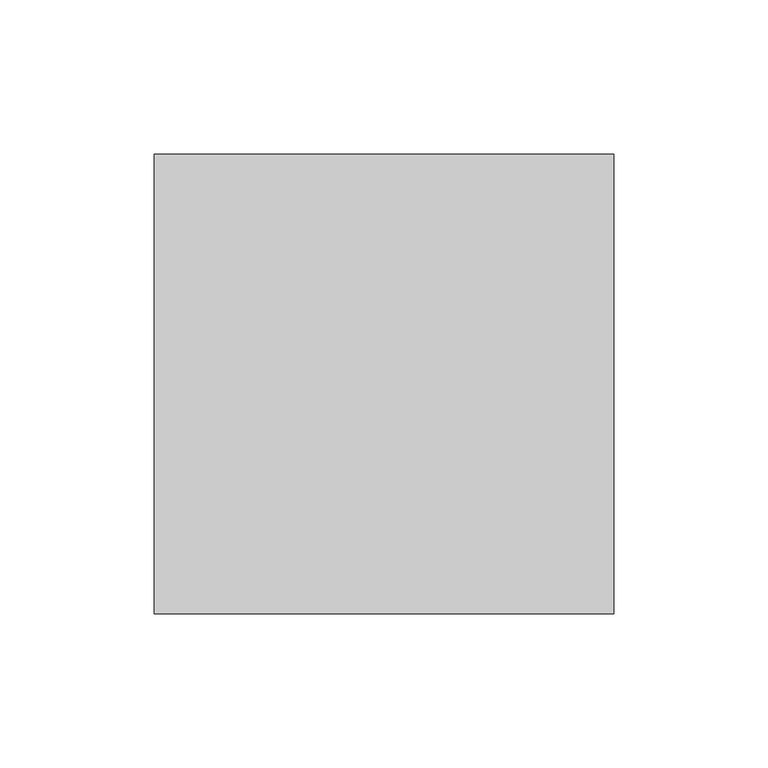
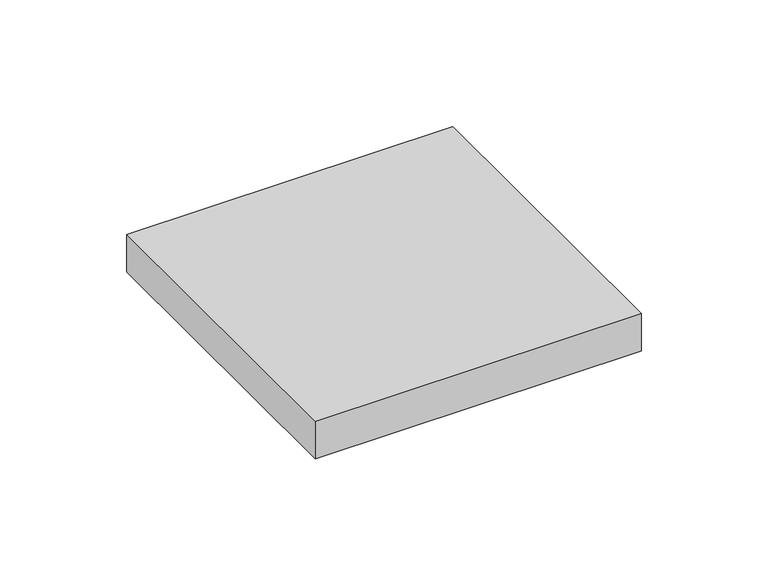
"""IFC4 building model written with IfcOpenShell, lengths in millimetres: proxy geometry, TECHNO_Решетка_KVU : Решетка рулонная деревянная / Светлое дерево."""

from ifc_helpers import new_model, si_unit, frame, origin, place, context, project, spatial, polyline, outline, extrude, source, transform, mapped, element, save


def mechanical_equipment_46e36d35(model_context):
    return source(origin(), model_context, "Body", "SweptSolid", [
        extrude(outline(polyline([(73.8, 73.8), (73.8, -75.0), (-75.0, -75.0), (-75.0, 73.8), (73.8, 73.8)])), frame((0.0, 0.0, -18.1), z_axis=(0.0, 0.0, 1.0), x_axis=(1.0, 0.0, 0.0)), (0.0, 0.0, 1.0), 18.1),
    ])


if __name__ == "__main__":
    model = new_model("IFC4")
    model_context = context("Model", 3, world=origin())
    ifc_project = project(units=[si_unit("LENGTHUNIT", "METRE", prefix="MILLI")], contexts=[model_context])
    site = spatial("IfcSite", under=ifc_project)
    building = spatial("IfcBuilding", under=site)
    placement = place(None, origin())
    mechanical_equipment_shape = mechanical_equipment_46e36d35(model_context)
    element("IfcBuildingElementProxy", 1, Name="TECHNO_Решетка_KVU : Решетка рулонная деревянная / Светлое дерево", ObjectType="TECHNO_Решетка_KVU : Решетка рулонная деревянная / Светлое дерево", at=placement, inside=building, context=model_context, shape_type="MappedRepresentation", body=[
        mapped(mechanical_equipment_shape, transform((0.0, 0.0, 0.0), x_axis=(1.0, 0.0, 0.0), y_axis=(0.0, 1.0, 0.0), z_axis=(0.0, 0.0, 1.0))),
    ])
    save(model, "model.ifc")
